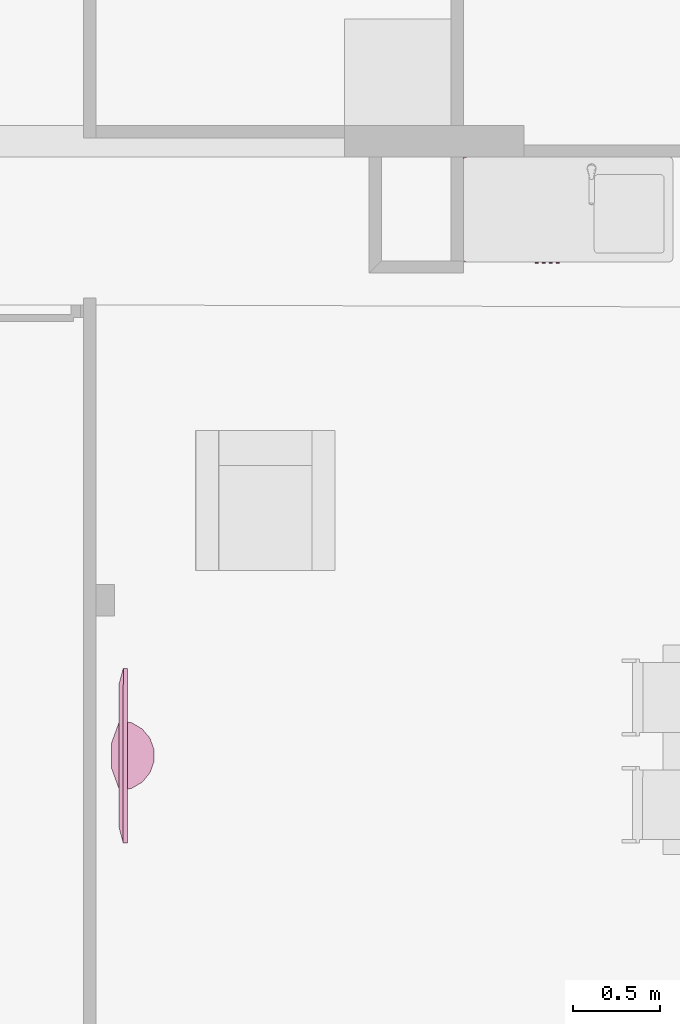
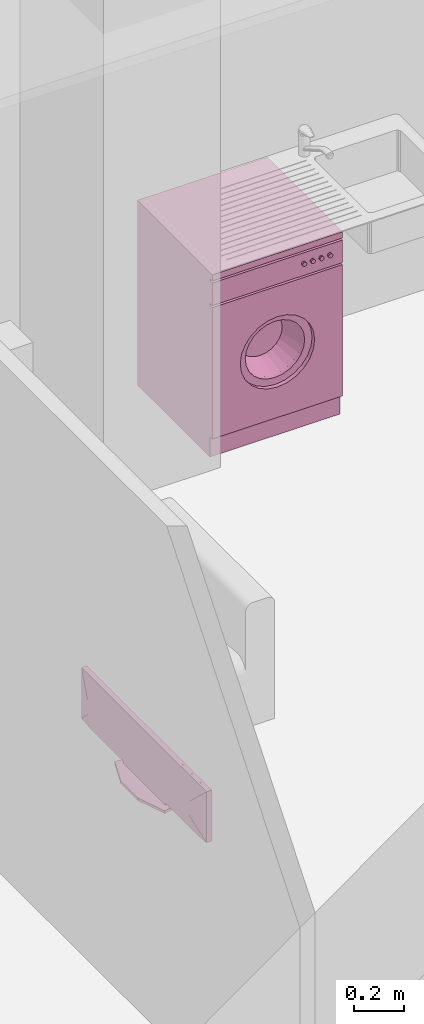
# One storey, part 117 of 164: 2 furnishings.
"""IFC2X3 building model written with IfcOpenShell, lengths in millimetres."""

from ifc_helpers import new_model, entity, si_unit, converted_unit, derived_unit, money_unit, direction, frame, origin_with_axes, place, context, subcontext, project, spatial, open_shell, faceted_brep, surface_model, source, transform, mapped, type_object, element, save


model = new_model("IFC2X3")

# Units and contexts
model_context = context("Model", 3, precision=0.01, world=origin_with_axes(), true_north=direction((0.0, 1.0)))
body_context = subcontext(model_context, "Body", "Model", "MODEL_VIEW")
ifc_project = project(units=[si_unit("LENGTHUNIT", "METRE", prefix="MILLI"), si_unit("AREAUNIT", "SQUARE_METRE"), si_unit("VOLUMEUNIT", "CUBIC_METRE"), converted_unit("PLANEANGLEUNIT", "DEGREE", entity("IfcPlaneAngleMeasure", 0.0174532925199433), si_unit("PLANEANGLEUNIT", "RADIAN"), dimensions=[0, 0, 0, 0, 0, 0, 0]), money_unit("USD"), converted_unit("TIMEUNIT", "Year", entity("IfcTimeMeasure", 31557600.0), si_unit("TIMEUNIT", "SECOND"), dimensions=[0, 0, 1, 0, 0, 0, 0]), si_unit("MASSUNIT", "GRAM", prefix="KILO"), si_unit("THERMODYNAMICTEMPERATUREUNIT", "DEGREE_CELSIUS"), si_unit("LUMINOUSINTENSITYUNIT", "LUMEN"), si_unit("ENERGYUNIT", "JOULE", prefix="MEGA"), derived_unit("THERMALCONDUCTANCEUNIT", [(si_unit("POWERUNIT", "WATT"), 1), (si_unit("LENGTHUNIT", "METRE"), -1), (si_unit("THERMODYNAMICTEMPERATUREUNIT", "KELVIN"), -1)]), derived_unit("SPECIFICHEATCAPACITYUNIT", [(si_unit("ENERGYUNIT", "JOULE"), 1), (si_unit("MASSUNIT", "GRAM", prefix="KILO"), -1), (si_unit("THERMODYNAMICTEMPERATUREUNIT", "KELVIN"), -1)]), derived_unit("MASSDENSITYUNIT", [(si_unit("MASSUNIT", "GRAM", prefix="KILO"), 1), (si_unit("VOLUMEUNIT", "CUBIC_METRE"), -1)])], contexts=[model_context])

# Site, building, storey
site_placement = place(None, origin_with_axes())
site = spatial("IfcSite", under=ifc_project, at=site_placement, Name="Site", CompositionType="ELEMENT")
building_placement = place(site_placement, origin_with_axes())
building = spatial("IfcBuilding", under=site, at=building_placement, Name="Bâtiment", CompositionType="ELEMENT")
storey_placement = place(building_placement, frame((0.0, 0.0, 5750.0), z_axis=(0.0, 0.0, 1.0), x_axis=(1.0, 0.0, 0.0)))
storey = spatial("IfcBuildingStorey", under=building, at=storey_placement, Name="Etage1", CompositionType="ELEMENT", Elevation=5750.0)

# Furnishings
furnishing_element_type_1 = type_object("IfcFurnishingElementType", Name="Machine à laver")
shared_shape_1 = source(origin_with_axes(), body_context, "Body", "SurfaceModel", [
    faceted_brep([(0.0, 20.0, 100.0), (0.0, 0.0, 100.0), (-600.0, 0.0, 100.0), (-600.0, 20.0, 100.0), (0.0, 20.00000000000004, 740.0), (0.0, 0.0, 740.0), (-600.0, 0.0, 740.0), (-471.4285714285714, 0.0, 420.0000000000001), (-465.5872845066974, 0.0, 464.3689791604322), (-448.4614977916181, 0.0, 505.7142857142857), (-421.2183053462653, 0.0, 541.2183053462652), (-385.7142857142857, 0.0, 568.4614977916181), (-344.3689791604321, 0.0, 585.5872845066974), (-300.0000000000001, 0.0, 591.4285714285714), (-255.6310208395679, 0.0, 585.5872845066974), (-214.2857142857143, 0.0, 568.4614977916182), (-178.7816946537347, 0.0, 541.2183053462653), (-151.5385022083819, 0.0, 505.7142857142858), (-134.4127154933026, 0.0, 464.3689791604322), (-128.5714285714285, 0.0, 420.0000000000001), (-134.4127154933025, 0.0, 375.6310208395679), (-151.5385022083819, 0.0, 334.2857142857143), (-178.7816946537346, 0.0, 298.7816946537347), (-214.2857142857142, 0.0, 271.5385022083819), (-255.6310208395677, 0.0, 254.4127154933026), (-299.9999999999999, 0.0, 248.5714285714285), (-344.368979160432, 0.0, 254.4127154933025), (-385.7142857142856, 0.0, 271.5385022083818), (-421.2183053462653, 0.0, 298.7816946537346), (-448.4614977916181, 0.0, 334.2857142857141), (-465.5872845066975, 0.0, 375.6310208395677), (-600.0, 20.00000000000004, 740.0), (-471.4285714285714, 20.00000000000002, 420.0000000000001), (-465.5872845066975, 20.00000000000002, 375.6310208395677), (-448.4614977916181, 20.00000000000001, 334.2857142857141), (-421.2183053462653, 20.00000000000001, 298.7816946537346), (-385.7142857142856, 20.00000000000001, 271.5385022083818), (-344.368979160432, 20.00000000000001, 254.4127154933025), (-299.9999999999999, 20.00000000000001, 248.5714285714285), (-255.6310208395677, 20.00000000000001, 254.4127154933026), (-214.2857142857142, 20.00000000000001, 271.5385022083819), (-178.7816946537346, 20.00000000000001, 298.7816946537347), (-151.5385022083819, 20.00000000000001, 334.2857142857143), (-134.4127154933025, 20.00000000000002, 375.6310208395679), (-128.5714285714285, 20.00000000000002, 420.0000000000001), (-134.4127154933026, 20.00000000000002, 464.3689791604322), (-151.5385022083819, 20.00000000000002, 505.7142857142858), (-178.7816946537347, 20.00000000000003, 541.2183053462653), (-214.2857142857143, 20.00000000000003, 568.4614977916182), (-255.6310208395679, 20.00000000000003, 585.5872845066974), (-300.0000000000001, 20.00000000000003, 591.4285714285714), (-344.3689791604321, 20.00000000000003, 585.5872845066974), (-385.7142857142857, 20.00000000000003, 568.4614977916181), (-421.2183053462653, 20.00000000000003, 541.2183053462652), (-448.4614977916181, 20.00000000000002, 505.7142857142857), (-465.5872845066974, 20.00000000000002, 464.3689791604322)], [[[0, 1, 2, 3]], [[4, 5, 1, 0]], [[1, 5, 6, 2], [7, 8, 9, 10, 11, 12, 13, 14, 15, 16, 17, 18, 19, 20, 21, 22, 23, 24, 25, 26, 27, 28, 29, 30]], [[3, 2, 6, 31]], [[0, 3, 31, 4], [32, 33, 34, 35, 36, 37, 38, 39, 40, 41, 42, 43, 44, 45, 46, 47, 48, 49, 50, 51, 52, 53, 54, 55]], [[31, 6, 5, 4]], [[55, 8, 7, 32]], [[54, 9, 8, 55]], [[53, 10, 9, 54]], [[52, 11, 10, 53]], [[51, 12, 11, 52]], [[50, 13, 12, 51]], [[49, 14, 13, 50]], [[48, 15, 14, 49]], [[47, 16, 15, 48]], [[46, 17, 16, 47]], [[45, 18, 17, 46]], [[44, 19, 18, 45]], [[43, 20, 19, 44]], [[42, 21, 20, 43]], [[41, 22, 21, 42]], [[40, 23, 22, 41]], [[39, 24, 23, 40]], [[38, 25, 24, 39]], [[37, 26, 25, 38]], [[36, 27, 26, 37]], [[35, 28, 27, 36]], [[34, 29, 28, 35]], [[33, 30, 29, 34]], [[32, 7, 30, 33]]]),
    faceted_brep([(-471.4285714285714, 40.00000000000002, 420.0000000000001), (-471.4285714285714, 20.00000000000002, 420.0000000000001), (-465.5872845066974, 20.00000000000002, 464.3689791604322), (-465.5872845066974, 40.00000000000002, 464.3689791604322), (-465.5872845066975, 40.00000000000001, 375.6310208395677), (-465.5872845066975, 20.00000000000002, 375.6310208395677), (-448.4614977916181, 20.00000000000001, 334.2857142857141), (-421.2183053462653, 20.00000000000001, 298.7816946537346), (-385.7142857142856, 20.00000000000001, 271.5385022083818), (-344.368979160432, 20.00000000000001, 254.4127154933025), (-299.9999999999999, 20.00000000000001, 248.5714285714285), (-255.6310208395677, 20.00000000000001, 254.4127154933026), (-214.2857142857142, 20.00000000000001, 271.5385022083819), (-178.7816946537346, 20.00000000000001, 298.7816946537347), (-151.5385022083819, 20.00000000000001, 334.2857142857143), (-134.4127154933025, 20.00000000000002, 375.6310208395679), (-128.5714285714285, 20.00000000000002, 420.0000000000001), (-134.4127154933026, 20.00000000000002, 464.3689791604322), (-151.5385022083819, 20.00000000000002, 505.7142857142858), (-178.7816946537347, 20.00000000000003, 541.2183053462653), (-214.2857142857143, 20.00000000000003, 568.4614977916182), (-255.6310208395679, 20.00000000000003, 585.5872845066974), (-300.0000000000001, 20.00000000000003, 591.4285714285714), (-344.3689791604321, 20.00000000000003, 585.5872845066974), (-385.7142857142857, 20.00000000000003, 568.4614977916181), (-421.2183053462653, 20.00000000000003, 541.2183053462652), (-448.4614977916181, 20.00000000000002, 505.7142857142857), (-437.1428571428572, 20.00000000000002, 420.0000000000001), (-432.469827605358, 20.00000000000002, 455.4951833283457), (-418.7691982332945, 20.00000000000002, 488.5714285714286), (-396.9746442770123, 20.00000000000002, 516.9746442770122), (-368.5714285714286, 20.00000000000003, 538.7691982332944), (-335.4951833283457, 20.00000000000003, 552.469827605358), (-300.0000000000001, 20.00000000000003, 557.1428571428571), (-264.5048166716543, 20.00000000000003, 552.469827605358), (-231.4285714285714, 20.00000000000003, 538.7691982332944), (-203.0253557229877, 20.00000000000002, 516.9746442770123), (-181.2308017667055, 20.00000000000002, 488.5714285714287), (-167.530172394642, 20.00000000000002, 455.4951833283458), (-162.8571428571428, 20.00000000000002, 420.0000000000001), (-167.530172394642, 20.00000000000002, 384.5048166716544), (-181.2308017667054, 20.00000000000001, 351.4285714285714), (-203.0253557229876, 20.00000000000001, 323.0253557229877), (-231.4285714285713, 20.00000000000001, 301.2308017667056), (-264.5048166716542, 20.00000000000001, 287.530172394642), (-299.9999999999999, 20.00000000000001, 282.8571428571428), (-335.4951833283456, 20.00000000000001, 287.530172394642), (-368.5714285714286, 20.00000000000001, 301.2308017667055), (-396.9746442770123, 20.00000000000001, 323.0253557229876), (-418.7691982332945, 20.00000000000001, 351.4285714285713), (-432.469827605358, 20.00000000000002, 384.5048166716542), (-448.4614977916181, 40.00000000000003, 505.7142857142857), (-421.2183053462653, 40.00000000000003, 541.2183053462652), (-385.7142857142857, 40.00000000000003, 568.4614977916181), (-344.3689791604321, 40.00000000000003, 585.5872845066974), (-300.0000000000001, 40.00000000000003, 591.4285714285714), (-255.6310208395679, 40.00000000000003, 585.5872845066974), (-214.2857142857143, 40.00000000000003, 568.4614977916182), (-178.7816946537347, 40.00000000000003, 541.2183053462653), (-151.5385022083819, 40.00000000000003, 505.7142857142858), (-134.4127154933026, 40.00000000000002, 464.3689791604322), (-128.5714285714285, 40.00000000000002, 420.0000000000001), (-134.4127154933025, 40.00000000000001, 375.6310208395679), (-151.5385022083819, 40.00000000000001, 334.2857142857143), (-178.7816946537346, 40.00000000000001, 298.7816946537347), (-214.2857142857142, 40.00000000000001, 271.5385022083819), (-255.6310208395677, 40.00000000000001, 254.4127154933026), (-299.9999999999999, 40.00000000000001, 248.5714285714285), (-344.368979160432, 40.00000000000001, 254.4127154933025), (-385.7142857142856, 40.00000000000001, 271.5385022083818), (-421.2183053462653, 40.00000000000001, 298.7816946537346), (-448.4614977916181, 40.00000000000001, 334.2857142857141), (-437.1428571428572, 40.00000000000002, 420.0000000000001), (-432.469827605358, 40.00000000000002, 384.5048166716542), (-418.7691982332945, 40.00000000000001, 351.4285714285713), (-396.9746442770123, 40.00000000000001, 323.0253557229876), (-368.5714285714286, 40.00000000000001, 301.2308017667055), (-335.4951833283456, 40.00000000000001, 287.530172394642), (-299.9999999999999, 40.00000000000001, 282.8571428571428), (-264.5048166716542, 40.00000000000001, 287.530172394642), (-231.4285714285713, 40.00000000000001, 301.2308017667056), (-203.0253557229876, 40.00000000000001, 323.0253557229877), (-181.2308017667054, 40.00000000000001, 351.4285714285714), (-167.530172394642, 40.00000000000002, 384.5048166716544), (-162.8571428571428, 40.00000000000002, 420.0000000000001), (-167.530172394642, 40.00000000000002, 455.4951833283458), (-181.2308017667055, 40.00000000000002, 488.5714285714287), (-203.0253557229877, 40.00000000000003, 516.9746442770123), (-231.4285714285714, 40.00000000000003, 538.7691982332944), (-264.5048166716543, 40.00000000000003, 552.469827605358), (-300.0000000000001, 40.00000000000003, 557.1428571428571), (-335.4951833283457, 40.00000000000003, 552.469827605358), (-368.5714285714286, 40.00000000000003, 538.7691982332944), (-396.9746442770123, 40.00000000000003, 516.9746442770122), (-418.7691982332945, 40.00000000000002, 488.5714285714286), (-432.469827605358, 40.00000000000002, 455.4951833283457)], [[[0, 1, 2, 3]], [[4, 5, 1, 0]], [[1, 5, 6, 7, 8, 9, 10, 11, 12, 13, 14, 15, 16, 17, 18, 19, 20, 21, 22, 23, 24, 25, 26, 2], [27, 28, 29, 30, 31, 32, 33, 34, 35, 36, 37, 38, 39, 40, 41, 42, 43, 44, 45, 46, 47, 48, 49, 50]], [[3, 2, 26, 51]], [[0, 3, 51, 52, 53, 54, 55, 56, 57, 58, 59, 60, 61, 62, 63, 64, 65, 66, 67, 68, 69, 70, 71, 4], [72, 73, 74, 75, 76, 77, 78, 79, 80, 81, 82, 83, 84, 85, 86, 87, 88, 89, 90, 91, 92, 93, 94, 95]], [[71, 6, 5, 4]], [[70, 7, 6, 71]], [[69, 8, 7, 70]], [[68, 9, 8, 69]], [[67, 10, 9, 68]], [[66, 11, 10, 67]], [[65, 12, 11, 66]], [[64, 13, 12, 65]], [[63, 14, 13, 64]], [[62, 15, 14, 63]], [[61, 16, 15, 62]], [[60, 17, 16, 61]], [[59, 18, 17, 60]], [[58, 19, 18, 59]], [[57, 20, 19, 58]], [[56, 21, 20, 57]], [[55, 22, 21, 56]], [[54, 23, 22, 55]], [[53, 24, 23, 54]], [[52, 25, 24, 53]], [[51, 26, 25, 52]], [[95, 28, 27, 72]], [[94, 29, 28, 95]], [[93, 30, 29, 94]], [[92, 31, 30, 93]], [[91, 32, 31, 92]], [[90, 33, 32, 91]], [[89, 34, 33, 90]], [[88, 35, 34, 89]], [[87, 36, 35, 88]], [[86, 37, 36, 87]], [[85, 38, 37, 86]], [[84, 39, 38, 85]], [[83, 40, 39, 84]], [[82, 41, 40, 83]], [[81, 42, 41, 82]], [[80, 43, 42, 81]], [[79, 44, 43, 80]], [[78, 45, 44, 79]], [[77, 46, 45, 78]], [[76, 47, 46, 77]], [[75, 48, 47, 76]], [[74, 49, 48, 75]], [[73, 50, 49, 74]], [[72, 27, 50, 73]]]),
    surface_model("IfcShellBasedSurfaceModel", [(-264.5048166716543, 39.99999999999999, 552.469827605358), (-273.3786125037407, 140.0, 519.3523707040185), (-300.0, 140.0, 522.8571428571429), (-300.0, 39.99999999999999, 557.1428571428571), (-231.4285714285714, 39.99999999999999, 538.7691982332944), (-248.5714285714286, 140.0, 509.0768986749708), (-227.2690167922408, 140.0, 492.7309832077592), (-210.9231013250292, 140.0, 471.4285714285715), (-200.6476292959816, 140.0, 446.6213874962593), (-197.1428571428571, 140.0, 420.0000000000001), (-200.6476292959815, 140.0, 393.3786125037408), (-210.9231013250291, 140.0, 368.5714285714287), (-227.2690167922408, 140.0, 347.2690167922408), (-248.5714285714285, 140.0, 330.9231013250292), (-273.3786125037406, 140.0, 320.6476292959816), (-299.9999999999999, 140.0, 317.1428571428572), (-326.6213874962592, 140.0, 320.6476292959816), (-351.4285714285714, 140.0, 330.9231013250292), (-372.7309832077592, 140.0, 347.2690167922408), (-389.0768986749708, 140.0, 368.5714285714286), (-399.3523707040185, 140.0, 393.3786125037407), (-402.8571428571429, 140.0, 420.0), (-399.3523707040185, 140.0, 446.6213874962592), (-389.0768986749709, 140.0, 471.4285714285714), (-372.7309832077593, 140.0, 492.7309832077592), (-351.4285714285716, 140.0, 509.0768986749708), (-326.6213874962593, 140.0, 519.3523707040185), (-335.4951833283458, 39.99999999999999, 552.469827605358), (-203.0253557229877, 39.99999999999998, 516.9746442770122), (-181.2308017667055, 39.99999999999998, 488.5714285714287), (-167.5301723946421, 39.99999999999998, 455.4951833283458), (-162.8571428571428, 39.99999999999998, 420.0000000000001), (-167.530172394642, 39.99999999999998, 384.5048166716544), (-181.2308017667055, 39.99999999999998, 351.4285714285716), (-203.0253557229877, 39.99999999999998, 323.0253557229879), (-231.4285714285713, 39.99999999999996, 301.2308017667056), (-264.5048166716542, 39.99999999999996, 287.5301723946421), (-299.9999999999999, 39.99999999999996, 282.8571428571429), (-335.4951833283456, 39.99999999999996, 287.5301723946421), (-368.5714285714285, 39.99999999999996, 301.2308017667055), (-396.9746442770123, 39.99999999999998, 323.0253557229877), (-418.7691982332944, 39.99999999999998, 351.4285714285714), (-432.469827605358, 39.99999999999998, 384.5048166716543), (-437.1428571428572, 39.99999999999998, 419.9999999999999), (-432.469827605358, 39.99999999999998, 455.4951833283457), (-418.7691982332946, 39.99999999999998, 488.5714285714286), (-396.9746442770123, 39.99999999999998, 516.9746442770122), (-368.5714285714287, 39.99999999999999, 538.7691982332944)], [open_shell([[[0, 1, 2, 3]], [[4, 5, 1, 0]], [[2, 1, 5, 6, 7, 8, 9, 10, 11, 12, 13, 14, 15, 16, 17, 18, 19, 20, 21, 22, 23, 24, 25, 26]], [[3, 2, 26, 27]], [[28, 6, 5, 4]], [[29, 7, 6, 28]], [[30, 8, 7, 29]], [[31, 9, 8, 30]], [[32, 10, 9, 31]], [[33, 11, 10, 32]], [[34, 12, 11, 33]], [[35, 13, 12, 34]], [[36, 14, 13, 35]], [[37, 15, 14, 36]], [[38, 16, 15, 37]], [[39, 17, 16, 38]], [[40, 18, 17, 39]], [[41, 19, 18, 40]], [[42, 20, 19, 41]], [[43, 21, 20, 42]], [[44, 22, 21, 43]], [[45, 23, 22, 44]], [[46, 24, 23, 45]], [[47, 25, 24, 46]], [[27, 26, 25, 47]]])]),
    surface_model("IfcShellBasedSurfaceModel", [(0.0, 20.0, 100.0), (0.0, 600.0, 99.99999999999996), (0.0, 600.0, 870.0), (0.0, 20.00000000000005, 870.0)], [open_shell([[[0, 1, 2, 3]]])]),
    surface_model("IfcShellBasedSurfaceModel", [(-600.0, 19.99999999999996, 100.0), (-600.0, 599.9999999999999, 99.99999999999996), (-600.0, 599.9999999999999, 870.0), (-600.0, 20.00000000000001, 870.0)], [open_shell([[[0, 1, 2, 3]]])]),
    surface_model("IfcShellBasedSurfaceModel", [(0.0, 600.0, 100.0), (-600.0, 600.0, 100.0), (-600.0, 600.0, 870.0), (0.0, 600.0, 870.0)], [open_shell([[[0, 1, 2, 3]]])]),
    faceted_brep([(0.0, 20.0, 0.0), (0.0, 20.0, 100.0), (-600.0, 20.0, 100.0), (-600.0, 20.0, 0.0), (0.0, 600.0, 0.0), (0.0, 600.0, 100.0), (-600.0, 600.0, 100.0), (-600.0, 600.0, 0.0)], [[[0, 1, 2, 3]], [[4, 5, 1, 0]], [[1, 5, 6, 2]], [[3, 2, 6, 7]], [[0, 3, 7, 4]], [[7, 6, 5, 4]]]),
    faceted_brep([(0.0, 20.0, 750.0), (0.0, 0.0, 750.0), (-600.0, 0.0, 750.0), (-600.0, 20.0, 750.0), (0.0, 20.00000000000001, 860.0), (0.0, 0.0, 860.0), (-600.0, 0.0, 860.0), (-600.0, 20.00000000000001, 860.0)], [[[0, 1, 2, 3]], [[4, 5, 1, 0]], [[1, 5, 6, 2]], [[3, 2, 6, 7]], [[0, 3, 7, 4]], [[7, 6, 5, 4]]]),
    surface_model("IfcShellBasedSurfaceModel", [(0.0, 20.0, 740.0), (-600.0, 20.0, 740.0), (-600.0, 20.00000000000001, 870.0), (0.0, 20.00000000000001, 870.0)], [open_shell([[[0, 1, 2, 3]]])]),
    faceted_brep([(0.0, 0.0, 870.0), (0.0, 0.0, 900.0), (-600.0, 0.0, 900.0), (-600.0, 0.0, 870.0), (0.0, 600.0, 870.0), (0.0, 600.0, 900.0), (-600.0, 600.0, 900.0), (-600.0, 600.0, 870.0)], [[[0, 1, 2, 3]], [[4, 5, 1, 0]], [[1, 5, 6, 2]], [[3, 2, 6, 7]], [[0, 3, 7, 4]], [[7, 6, 5, 4]]]),
    faceted_brep([(-68.66025403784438, 0.0, 804.9999999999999), (-69.99999999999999, 0.0, 809.9999999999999), (-68.66025403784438, 0.0, 815.0), (-65.0, 0.0, 818.6602540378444), (-60.0, 0.0, 820.0), (-55.0, 0.0, 818.6602540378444), (-51.33974596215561, 0.0, 815.0), (-49.99999999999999, 0.0, 809.9999999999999), (-51.33974596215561, 0.0, 804.9999999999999), (-54.99999999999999, 0.0, 801.3397459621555), (-59.99999999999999, 0.0, 799.9999999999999), (-64.99999999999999, 0.0, 801.3397459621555), (-68.66025403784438, -10.0, 804.9999999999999), (-69.99999999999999, -10.0, 809.9999999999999), (-68.66025403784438, -10.0, 815.0), (-65.0, -10.0, 818.6602540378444), (-60.0, -10.0, 820.0), (-55.0, -10.0, 818.6602540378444), (-51.33974596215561, -10.0, 815.0), (-49.99999999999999, -10.0, 809.9999999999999), (-51.33974596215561, -10.0, 804.9999999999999), (-54.99999999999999, -10.0, 801.3397459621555), (-59.99999999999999, -10.0, 799.9999999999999), (-64.99999999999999, -10.0, 801.3397459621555)], [[[0, 1, 2, 3, 4, 5, 6, 7, 8, 9, 10, 11]], [[0, 12, 13, 1]], [[1, 13, 14, 2]], [[2, 14, 15, 3]], [[3, 15, 16, 4]], [[4, 16, 17, 5]], [[5, 17, 18, 6]], [[6, 18, 19, 7]], [[7, 19, 20, 8]], [[8, 20, 21, 9]], [[9, 21, 22, 10]], [[10, 22, 23, 11]], [[11, 23, 12, 0]], [[12, 23, 22, 21, 20, 19, 18, 17, 16, 15, 14, 13]]]),
    faceted_brep([(-108.6602540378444, 0.0, 804.9999999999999), (-110.0, 0.0, 809.9999999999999), (-108.6602540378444, 0.0, 815.0), (-105.0, 0.0, 818.6602540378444), (-100.0, 0.0, 820.0), (-95.0, 0.0, 818.6602540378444), (-91.33974596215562, 0.0, 815.0), (-90.00000000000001, 0.0, 809.9999999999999), (-91.33974596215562, 0.0, 804.9999999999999), (-95.0, 0.0, 801.3397459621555), (-99.99999999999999, 0.0, 799.9999999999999), (-105.0, 0.0, 801.3397459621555), (-108.6602540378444, -10.0, 804.9999999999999), (-110.0, -10.0, 809.9999999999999), (-108.6602540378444, -10.0, 815.0), (-105.0, -10.0, 818.6602540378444), (-100.0, -10.0, 820.0), (-95.0, -10.0, 818.6602540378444), (-91.33974596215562, -10.0, 815.0), (-90.00000000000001, -10.0, 809.9999999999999), (-91.33974596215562, -10.0, 804.9999999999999), (-95.0, -10.0, 801.3397459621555), (-99.99999999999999, -10.0, 799.9999999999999), (-105.0, -10.0, 801.3397459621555)], [[[0, 1, 2, 3, 4, 5, 6, 7, 8, 9, 10, 11]], [[0, 12, 13, 1]], [[1, 13, 14, 2]], [[2, 14, 15, 3]], [[3, 15, 16, 4]], [[4, 16, 17, 5]], [[5, 17, 18, 6]], [[6, 18, 19, 7]], [[7, 19, 20, 8]], [[8, 20, 21, 9]], [[9, 21, 22, 10]], [[10, 22, 23, 11]], [[11, 23, 12, 0]], [[12, 23, 22, 21, 20, 19, 18, 17, 16, 15, 14, 13]]]),
    faceted_brep([(-148.6602540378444, 0.0, 804.9999999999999), (-150.0, 0.0, 809.9999999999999), (-148.6602540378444, 0.0, 815.0), (-145.0, 0.0, 818.6602540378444), (-140.0, 0.0, 820.0), (-135.0, 0.0, 818.6602540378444), (-131.3397459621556, 0.0, 815.0), (-130.0, 0.0, 809.9999999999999), (-131.3397459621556, 0.0, 804.9999999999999), (-135.0, 0.0, 801.3397459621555), (-140.0, 0.0, 799.9999999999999), (-145.0, 0.0, 801.3397459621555), (-148.6602540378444, -10.0, 804.9999999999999), (-150.0, -10.0, 809.9999999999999), (-148.6602540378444, -10.0, 815.0), (-145.0, -10.0, 818.6602540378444), (-140.0, -10.0, 820.0), (-135.0, -10.0, 818.6602540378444), (-131.3397459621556, -10.0, 815.0), (-130.0, -10.0, 809.9999999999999), (-131.3397459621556, -10.0, 804.9999999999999), (-135.0, -10.0, 801.3397459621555), (-140.0, -10.0, 799.9999999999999), (-145.0, -10.0, 801.3397459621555)], [[[0, 1, 2, 3, 4, 5, 6, 7, 8, 9, 10, 11]], [[0, 12, 13, 1]], [[1, 13, 14, 2]], [[2, 14, 15, 3]], [[3, 15, 16, 4]], [[4, 16, 17, 5]], [[5, 17, 18, 6]], [[6, 18, 19, 7]], [[7, 19, 20, 8]], [[8, 20, 21, 9]], [[9, 21, 22, 10]], [[10, 22, 23, 11]], [[11, 23, 12, 0]], [[12, 23, 22, 21, 20, 19, 18, 17, 16, 15, 14, 13]]]),
    faceted_brep([(-188.6602540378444, 0.0, 804.9999999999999), (-190.0, 0.0, 809.9999999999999), (-188.6602540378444, 0.0, 815.0), (-185.0, 0.0, 818.6602540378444), (-180.0, 0.0, 820.0), (-175.0, 0.0, 818.6602540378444), (-171.3397459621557, 0.0, 815.0), (-170.0, 0.0, 809.9999999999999), (-171.3397459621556, 0.0, 804.9999999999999), (-175.0, 0.0, 801.3397459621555), (-180.0, 0.0, 799.9999999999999), (-185.0, 0.0, 801.3397459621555), (-188.6602540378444, -10.0, 804.9999999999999), (-190.0, -10.0, 809.9999999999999), (-188.6602540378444, -10.0, 815.0), (-185.0, -10.0, 818.6602540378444), (-180.0, -10.0, 820.0), (-175.0, -10.0, 818.6602540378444), (-171.3397459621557, -10.0, 815.0), (-170.0, -10.0, 809.9999999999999), (-171.3397459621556, -10.0, 804.9999999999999), (-175.0, -10.0, 801.3397459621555), (-180.0, -10.0, 799.9999999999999), (-185.0, -10.0, 801.3397459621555)], [[[0, 1, 2, 3, 4, 5, 6, 7, 8, 9, 10, 11]], [[0, 12, 13, 1]], [[1, 13, 14, 2]], [[2, 14, 15, 3]], [[3, 15, 16, 4]], [[4, 16, 17, 5]], [[5, 17, 18, 6]], [[6, 18, 19, 7]], [[7, 19, 20, 8]], [[8, 20, 21, 9]], [[9, 21, 22, 10]], [[10, 22, 23, 11]], [[11, 23, 12, 0]], [[12, 23, 22, 21, 20, 19, 18, 17, 16, 15, 14, 13]]]),
])
furnishing_1_placement = place(storey_placement, frame((2229906.499764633, -653013.5967436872, 0.0), z_axis=(0.0, 0.0, 1.0), x_axis=(0.9999997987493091, -0.0006344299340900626, 0.0)))
element("IfcFurnishingElement", 1, at=furnishing_1_placement, inside=storey, type_object=furnishing_element_type_1, Name="Obj.-019", context=body_context, shape_type="MappedRepresentation", body=[
    mapped(shared_shape_1, transform((0.0, 0.0, 0.0))),
])
furnishing_element_type_2 = type_object("IfcFurnishingElementType", Name="Ecran TV plasma")
shared_shape_2 = source(origin_with_axes(), body_context, "Body", "Brep", [
    faceted_brep([(-300.0, 45.45454545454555, 0.0), (-300.0, 45.45454545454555, 12.72727272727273), (-311.9952377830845, -22.76722074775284, 12.72727272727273), (-311.9952377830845, -22.76722074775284, 0.0), (-300.362869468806, 45.66379498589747, 0.0), (-300.362869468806, 45.66379498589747, 12.72727272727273), (-430.8157560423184, 93.01588086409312, 12.72727272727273), (-569.5967719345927, 92.94321528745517, 12.72727272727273), (-700.0000000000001, 45.45454545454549, 12.72727272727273), (-699.9923846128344, 43.70923835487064, 12.72727272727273), (-687.402263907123, -24.40525330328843, 12.72727272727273), (-652.3327960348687, -84.13989598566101, 12.72727272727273), (-598.9906470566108, -128.3293772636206, 12.72727272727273), (-533.7743345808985, -151.6730637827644, 12.72727272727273), (-464.5067103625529, -151.3708248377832, 12.72727272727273), (-399.4965906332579, -127.4589147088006, 12.72727272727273), (-346.5420938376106, -82.80562387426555, 12.72727272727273), (-346.5420938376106, -82.80562387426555, 0.0), (-399.4965906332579, -127.4589147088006, 0.0), (-464.5067103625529, -151.3708248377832, 0.0), (-533.7743345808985, -151.6730637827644, 0.0), (-598.9906470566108, -128.3293772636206, 0.0), (-652.3327960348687, -84.13989598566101, 0.0), (-687.402263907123, -24.40525330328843, 0.0), (-699.9923846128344, 43.70923835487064, 0.0), (-700.0000000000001, 45.45454545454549, 0.0), (-569.5967719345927, 92.94321528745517, 0.0), (-430.8157560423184, 93.01588086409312, 0.0)], [[[0, 1, 2, 3]], [[4, 5, 1, 0]], [[1, 5, 6, 7, 8, 9, 10, 11, 12, 13, 14, 15, 16, 2]], [[3, 2, 16, 17]], [[0, 3, 17, 18, 19, 20, 21, 22, 23, 24, 25, 26, 27, 4]], [[27, 6, 5, 4]], [[26, 7, 6, 27]], [[25, 8, 7, 26]], [[24, 9, 8, 25]], [[23, 10, 9, 24]], [[22, 11, 10, 23]], [[21, 12, 11, 22]], [[20, 13, 12, 21]], [[19, 14, 13, 20]], [[18, 15, 14, 19]], [[17, 16, 15, 18]]]),
    faceted_brep([(-666.6666666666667, 2.500000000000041, 12.72727272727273), (-666.6666666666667, 2.500000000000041, 25.45454545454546), (-666.6666666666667, 22.50000000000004, 25.45454545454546), (-666.6666666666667, 22.50000000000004, 12.72727272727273), (-333.3333333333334, 2.500000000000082, 12.72727272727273), (-333.3333333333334, 2.500000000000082, 25.45454545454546), (-333.3333333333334, 22.50000000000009, 25.45454545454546), (-333.3333333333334, 22.50000000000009, 12.72727272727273)], [[[0, 1, 2, 3]], [[4, 5, 1, 0]], [[1, 5, 6, 2]], [[3, 2, 6, 7]], [[0, 3, 7, 4]], [[7, 6, 5, 4]]]),
    faceted_brep([(-62.5, -0.2539999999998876, 65.45454545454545), (-62.5, 0.0, 65.45454545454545), (-62.5, 0.0, 254.5454545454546), (-62.5, -0.2539999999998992, 254.5454545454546), (-937.5, -0.2539999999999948, 65.45454545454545), (-937.5, 0.0, 65.45454545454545), (-937.5, 0.0, 254.5454545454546), (-937.5, -0.2540000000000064, 254.5454545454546)], [[[0, 1, 2, 3]], [[4, 5, 1, 0]], [[1, 5, 6, 2]], [[3, 2, 6, 7]], [[0, 3, 7, 4]], [[7, 6, 5, 4]]]),
    faceted_brep([(-937.5, 0.0, 25.45454545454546), (-62.5, 0.0, 25.45454545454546), (0.0, 0.0, 31.81818181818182), (0.0, 0.0, 280.0), (-1000.0, 0.0, 280.0), (-1000.0, 0.0, 31.81818181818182), (-937.5000003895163, 25.00000000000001, 25.4545450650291), (-62.50000038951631, 25.00000000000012, 25.4545450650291), (-3.895163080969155e-07, 25.00000000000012, 31.81818187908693), (-3.895163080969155e-07, 25.00000000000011, 279.9999999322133), (-1000.000000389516, 24.99999999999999, 279.9999999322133), (-1000.000000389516, 25.0, 31.81818187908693), (-934.156616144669, 42.64268163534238, 91.29792930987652), (-906.6987288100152, 50.00000037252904, 118.7558166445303), (-93.30127196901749, 50.00000037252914, 118.7558166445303), (-65.84338463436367, 42.64268163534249, 91.29792930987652), (-93.30127196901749, 50.00000037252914, 186.6987283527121), (-906.6987288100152, 50.00000037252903, 186.6987283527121)], [[[0, 1, 2, 3, 4, 5]], [[0, 6, 7, 1]], [[1, 7, 8, 2]], [[2, 8, 9, 3]], [[3, 9, 10, 4]], [[4, 10, 11, 5]], [[5, 11, 6, 0]], [[6, 12, 13, 14, 15, 7]], [[7, 15, 8]], [[8, 15, 14, 16, 9]], [[9, 16, 17, 10]], [[10, 17, 13, 12, 11]], [[11, 12, 6]], [[17, 16, 14, 13]]]),
    faceted_brep([(-500.0, -0.7937499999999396, 39.45454545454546), (-500.0, 0.0, 39.45454545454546), (-490.0, 0.0, 46.45454545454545), (-490.0, -0.7937499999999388, 46.45454545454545), (-510.0, -0.7937499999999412, 46.45454545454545), (-510.0, 0.0, 46.45454545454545), (-600.0, 0.0, 52.18181818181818), (-400.0, 0.0, 52.18181818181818), (-400.0, -0.7937499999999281, 52.18181818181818), (-600.0, -0.7937499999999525, 52.18181818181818)], [[[0, 1, 2, 3]], [[4, 5, 1, 0]], [[1, 5, 6, 7, 2]], [[3, 2, 7, 8]], [[0, 3, 8, 9, 4]], [[9, 6, 5, 4]], [[8, 7, 6, 9]]]),
    faceted_brep([(-866.6666666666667, 10.0, 280.0), (-866.6666666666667, 10.0, 281.5875), (-933.3333333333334, 9.999999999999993, 281.5875), (-933.3333333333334, 9.999999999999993, 280.0), (-866.6666666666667, 16.25, 280.0), (-866.6666666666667, 16.25, 281.5875), (-933.3333333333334, 16.24999999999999, 281.5875), (-933.3333333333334, 16.24999999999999, 280.0)], [[[0, 1, 2, 3]], [[0, 4, 5, 1]], [[1, 5, 6, 2]], [[2, 6, 7, 3]], [[3, 7, 4, 0]], [[7, 6, 5, 4]]]),
    faceted_brep([(-795.2380952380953, 10.00000000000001, 280.0), (-795.2380952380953, 10.00000000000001, 281.5875), (-861.9047619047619, 10.0, 281.5875), (-861.9047619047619, 10.0, 280.0), (-795.2380952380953, 16.25000000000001, 280.0), (-795.2380952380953, 16.25000000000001, 281.5875), (-861.9047619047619, 16.25, 281.5875), (-861.9047619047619, 16.25, 280.0)], [[[0, 1, 2, 3]], [[0, 4, 5, 1]], [[1, 5, 6, 2]], [[2, 6, 7, 3]], [[3, 7, 4, 0]], [[7, 6, 5, 4]]]),
    faceted_brep([(-757.1428571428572, 10.00000000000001, 280.0), (-757.1428571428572, 10.00000000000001, 281.5875), (-790.4761904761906, 10.00000000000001, 281.5875), (-790.4761904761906, 10.00000000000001, 280.0), (-757.1428571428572, 16.25000000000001, 280.0), (-757.1428571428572, 16.25000000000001, 281.5875), (-790.4761904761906, 16.25000000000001, 281.5875), (-790.4761904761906, 16.25000000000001, 280.0)], [[[0, 1, 2, 3]], [[0, 4, 5, 1]], [[1, 5, 6, 2]], [[2, 6, 7, 3]], [[3, 7, 4, 0]], [[7, 6, 5, 4]]]),
])
furnishing_2_placement = place(storey_placement, frame((2227384.093971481, -655341.0265273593, 800.0000000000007), z_axis=(0.0, 0.0, 1.0), x_axis=(0.0005626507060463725, 0.999999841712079, 0.0)))
element("IfcFurnishingElement", 2, at=furnishing_2_placement, inside=storey, type_object=furnishing_element_type_2, Name="Obj.-034", context=body_context, shape_type="MappedRepresentation", body=[
    mapped(shared_shape_2, transform((0.0, 0.0, 0.0))),
])

save(model, "model.ifc")
